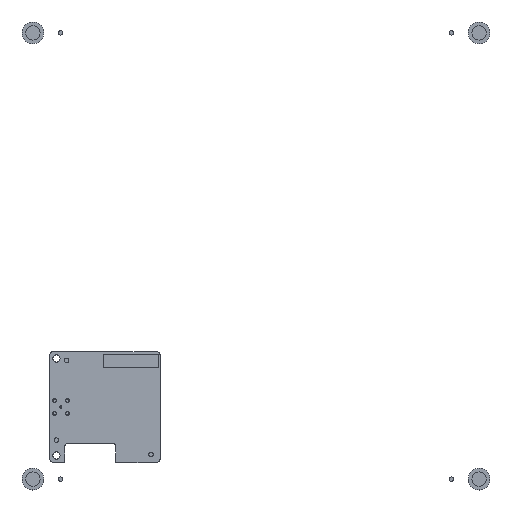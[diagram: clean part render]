
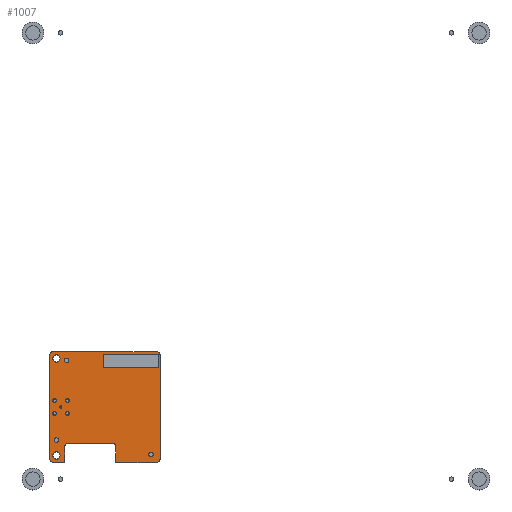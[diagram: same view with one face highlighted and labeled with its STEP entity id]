
A CAD part, top view. The second image highlights one B-rep face of the part: STEP entity #1007.
In plain terms, the highlighted planar face has unit normal (0, 0, 1).
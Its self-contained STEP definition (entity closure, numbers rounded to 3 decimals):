
#699=FACE_OUTER_BOUND($,#815,.F.);
#715=FACE_OUTER_BOUND($,#831,.T.);
#719=FACE_OUTER_BOUND($,#835,.T.);
#723=FACE_OUTER_BOUND($,#839,.T.);
#727=FACE_OUTER_BOUND($,#843,.T.);
#731=FACE_OUTER_BOUND($,#847,.T.);
#735=FACE_OUTER_BOUND($,#851,.T.);
#739=FACE_OUTER_BOUND($,#855,.T.);
#815=EDGE_LOOP($,(#1427,#1428,#1429,#1430,#1431,#1432,#1433,#1434,#1435,
#1436,#1437,#1438,#1439,#1440));
#831=EDGE_LOOP($,(#1511,#1512));
#835=EDGE_LOOP($,(#1523,#1524));
#839=EDGE_LOOP($,(#1535,#1536));
#843=EDGE_LOOP($,(#1547,#1548));
#847=EDGE_LOOP($,(#1559,#1560));
#851=EDGE_LOOP($,(#1571,#1572));
#855=EDGE_LOOP($,(#1583,#1584));
#931=PLANE($,#1167);
#1007=ADVANCED_FACE($,(#699,#715,#719,#723,#727,#731,#735,#739),#931,.T.);
#1109=CIRCLE($,#1161,0.886);
#1110=CIRCLE($,#1162,0.933);
#1111=CIRCLE($,#1163,0.756);
#1112=CIRCLE($,#1164,0.756);
#1113=CIRCLE($,#1165,0.889);
#1114=CIRCLE($,#1166,0.891);
#1121=CIRCLE($,#1189,0.254);
#1122=CIRCLE($,#1190,0.254);
#1125=CIRCLE($,#1195,0.419);
#1126=CIRCLE($,#1196,0.419);
#1129=CIRCLE($,#1201,0.419);
#1130=CIRCLE($,#1202,0.419);
#1133=CIRCLE($,#1207,0.419);
#1134=CIRCLE($,#1208,0.419);
#1137=CIRCLE($,#1213,0.419);
#1138=CIRCLE($,#1214,0.419);
#1141=CIRCLE($,#1219,0.826);
#1142=CIRCLE($,#1220,0.826);
#1145=CIRCLE($,#1225,0.826);
#1146=CIRCLE($,#1226,0.826);
#1161=AXIS2_PLACEMENT_3D($,#3217,#2851,$);
#1162=AXIS2_PLACEMENT_3D($,#3218,#2851,$);
#1163=AXIS2_PLACEMENT_3D($,#3219,#2851,$);
#1164=AXIS2_PLACEMENT_3D($,#3220,#2851,$);
#1165=AXIS2_PLACEMENT_3D($,#3221,#2851,$);
#1166=AXIS2_PLACEMENT_3D($,#3222,#2851,$);
#1167=AXIS2_PLACEMENT_3D($,#3203,#2851,$);
#1189=AXIS2_PLACEMENT_3D($,#3253,#2851,$);
#1190=AXIS2_PLACEMENT_3D($,#3254,#2851,$);
#1195=AXIS2_PLACEMENT_3D($,#3265,#2851,$);
#1196=AXIS2_PLACEMENT_3D($,#3266,#2851,$);
#1201=AXIS2_PLACEMENT_3D($,#3277,#2851,$);
#1202=AXIS2_PLACEMENT_3D($,#3278,#2851,$);
#1207=AXIS2_PLACEMENT_3D($,#3289,#2851,$);
#1208=AXIS2_PLACEMENT_3D($,#3290,#2851,$);
#1213=AXIS2_PLACEMENT_3D($,#3301,#2851,$);
#1214=AXIS2_PLACEMENT_3D($,#3302,#2851,$);
#1219=AXIS2_PLACEMENT_3D($,#3313,#2851,$);
#1220=AXIS2_PLACEMENT_3D($,#3314,#2851,$);
#1225=AXIS2_PLACEMENT_3D($,#3325,#2851,$);
#1226=AXIS2_PLACEMENT_3D($,#3326,#2851,$);
#1427=ORIENTED_EDGE($,*,*,#1871,.T.);
#1428=ORIENTED_EDGE($,*,*,#1872,.T.);
#1429=ORIENTED_EDGE($,*,*,#1873,.T.);
#1430=ORIENTED_EDGE($,*,*,#1874,.T.);
#1431=ORIENTED_EDGE($,*,*,#1875,.T.);
#1432=ORIENTED_EDGE($,*,*,#1876,.T.);
#1433=ORIENTED_EDGE($,*,*,#1877,.T.);
#1434=ORIENTED_EDGE($,*,*,#1878,.T.);
#1435=ORIENTED_EDGE($,*,*,#1879,.T.);
#1436=ORIENTED_EDGE($,*,*,#1880,.T.);
#1437=ORIENTED_EDGE($,*,*,#1881,.T.);
#1438=ORIENTED_EDGE($,*,*,#1882,.T.);
#1439=ORIENTED_EDGE($,*,*,#1883,.T.);
#1440=ORIENTED_EDGE($,*,*,#1884,.T.);
#1511=ORIENTED_EDGE($,*,*,#1914,.T.);
#1512=ORIENTED_EDGE($,*,*,#1915,.T.);
#1523=ORIENTED_EDGE($,*,*,#1921,.T.);
#1524=ORIENTED_EDGE($,*,*,#1922,.T.);
#1535=ORIENTED_EDGE($,*,*,#1928,.T.);
#1536=ORIENTED_EDGE($,*,*,#1929,.T.);
#1547=ORIENTED_EDGE($,*,*,#1935,.T.);
#1548=ORIENTED_EDGE($,*,*,#1936,.T.);
#1559=ORIENTED_EDGE($,*,*,#1942,.T.);
#1560=ORIENTED_EDGE($,*,*,#1943,.T.);
#1571=ORIENTED_EDGE($,*,*,#1949,.T.);
#1572=ORIENTED_EDGE($,*,*,#1950,.T.);
#1583=ORIENTED_EDGE($,*,*,#1956,.T.);
#1584=ORIENTED_EDGE($,*,*,#1957,.T.);
#1871=EDGE_CURVE($,#2496,#2497,#2305,.T.);
#1872=EDGE_CURVE($,#2497,#2498,#1109,.F.);
#1873=EDGE_CURVE($,#2498,#2499,#2306,.T.);
#1874=EDGE_CURVE($,#2499,#2500,#1110,.F.);
#1875=EDGE_CURVE($,#2500,#2501,#2307,.T.);
#1876=EDGE_CURVE($,#2501,#2502,#2308,.T.);
#1877=EDGE_CURVE($,#2502,#2503,#1111,.T.);
#1878=EDGE_CURVE($,#2503,#2504,#2309,.T.);
#1879=EDGE_CURVE($,#2504,#2505,#1112,.T.);
#1880=EDGE_CURVE($,#2505,#2506,#2310,.T.);
#1881=EDGE_CURVE($,#2506,#2507,#2311,.T.);
#1882=EDGE_CURVE($,#2507,#2508,#1113,.F.);
#1883=EDGE_CURVE($,#2508,#2509,#2312,.T.);
#1884=EDGE_CURVE($,#2509,#2496,#1114,.F.);
#1914=EDGE_CURVE($,#2526,#2527,#1121,.F.);
#1915=EDGE_CURVE($,#2527,#2526,#1122,.F.);
#1921=EDGE_CURVE($,#2532,#2533,#1125,.F.);
#1922=EDGE_CURVE($,#2533,#2532,#1126,.F.);
#1928=EDGE_CURVE($,#2538,#2539,#1129,.F.);
#1929=EDGE_CURVE($,#2539,#2538,#1130,.F.);
#1935=EDGE_CURVE($,#2544,#2545,#1133,.F.);
#1936=EDGE_CURVE($,#2545,#2544,#1134,.F.);
#1942=EDGE_CURVE($,#2550,#2551,#1137,.F.);
#1943=EDGE_CURVE($,#2551,#2550,#1138,.F.);
#1949=EDGE_CURVE($,#2556,#2557,#1141,.F.);
#1950=EDGE_CURVE($,#2557,#2556,#1142,.F.);
#1956=EDGE_CURVE($,#2562,#2563,#1145,.F.);
#1957=EDGE_CURVE($,#2563,#2562,#1146,.F.);
#2114=VECTOR($,#2854,23.597);
#2115=VECTOR($,#2855,23.647);
#2116=VECTOR($,#2856,9.271);
#2117=VECTOR($,#2857,3.627);
#2118=VECTOR($,#2858,10.16);
#2119=VECTOR($,#2859,3.621);
#2120=VECTOR($,#2860,2.609);
#2121=VECTOR($,#2861,23.651);
#2305=LINE($,#3202,#2114);
#2306=LINE($,#3204,#2115);
#2307=LINE($,#3206,#2116);
#2308=LINE($,#3207,#2117);
#2309=LINE($,#3209,#2118);
#2310=LINE($,#3211,#2119);
#2311=LINE($,#3212,#2120);
#2312=LINE($,#3214,#2121);
#2496=VERTEX_POINT($,#3202);
#2497=VERTEX_POINT($,#3203);
#2498=VERTEX_POINT($,#3204);
#2499=VERTEX_POINT($,#3205);
#2500=VERTEX_POINT($,#3206);
#2501=VERTEX_POINT($,#3207);
#2502=VERTEX_POINT($,#3208);
#2503=VERTEX_POINT($,#3209);
#2504=VERTEX_POINT($,#3210);
#2505=VERTEX_POINT($,#3211);
#2506=VERTEX_POINT($,#3212);
#2507=VERTEX_POINT($,#3213);
#2508=VERTEX_POINT($,#3214);
#2509=VERTEX_POINT($,#3215);
#2526=VERTEX_POINT($,#3250);
#2527=VERTEX_POINT($,#3251);
#2532=VERTEX_POINT($,#3262);
#2533=VERTEX_POINT($,#3263);
#2538=VERTEX_POINT($,#3274);
#2539=VERTEX_POINT($,#3275);
#2544=VERTEX_POINT($,#3286);
#2545=VERTEX_POINT($,#3287);
#2550=VERTEX_POINT($,#3298);
#2551=VERTEX_POINT($,#3299);
#2556=VERTEX_POINT($,#3310);
#2557=VERTEX_POINT($,#3311);
#2562=VERTEX_POINT($,#3322);
#2563=VERTEX_POINT($,#3323);
#2851=DIRECTION($,(0.,0.,1.));
#2854=DIRECTION($,(1.,0.,0.));
#2855=DIRECTION($,(0.,-1.,0.));
#2856=DIRECTION($,(-1.,0.001,0.));
#2857=DIRECTION($,(0.,1.,0.));
#2858=DIRECTION($,(-1.,0.,0.));
#2859=DIRECTION($,(0.,-1.,0.));
#2860=DIRECTION($,(-1.,0.001,0.));
#2861=DIRECTION($,(0.,1.,0.));
#3202=CARTESIAN_POINT('',(0.851,25.4,0.));
#3203=CARTESIAN_POINT('',(24.448,25.4,0.));
#3204=CARTESIAN_POINT('',(25.337,24.524,0.));
#3205=CARTESIAN_POINT('',(25.337,0.876,0.));
#3206=CARTESIAN_POINT('',(24.448,-0.013,0.));
#3207=CARTESIAN_POINT('',(15.177,-0.008,0.));
#3208=CARTESIAN_POINT('',(15.177,3.62,0.));
#3209=CARTESIAN_POINT('',(14.415,4.382,0.));
#3210=CARTESIAN_POINT('',(4.255,4.382,0.));
#3211=CARTESIAN_POINT('',(3.493,3.62,0.));
#3212=CARTESIAN_POINT('',(3.493,-0.002,0.));
#3213=CARTESIAN_POINT('',(0.883,0.,0.));
#3214=CARTESIAN_POINT('',(0.,0.879,0.));
#3215=CARTESIAN_POINT('',(0.,24.53,0.));
#3217=CARTESIAN_POINT('',(24.45,24.514,0.));
#3218=CARTESIAN_POINT('',(24.404,0.919,0.));
#3219=CARTESIAN_POINT('',(14.42,3.625,0.));
#3220=CARTESIAN_POINT('',(4.249,3.625,0.));
#3221=CARTESIAN_POINT('',(0.889,0.889,0.));
#3222=CARTESIAN_POINT('',(0.891,24.51,0.));
#3250=CARTESIAN_POINT('',(2.858,12.7,0.));
#3251=CARTESIAN_POINT('',(2.35,12.7,0.));
#3253=CARTESIAN_POINT('',(2.604,12.7,0.));
#3254=CARTESIAN_POINT('',(2.604,12.7,0.));
#3262=CARTESIAN_POINT('',(1.524,14.199,0.));
#3263=CARTESIAN_POINT('',(0.686,14.199,0.));
#3265=CARTESIAN_POINT('',(1.105,14.199,0.));
#3266=CARTESIAN_POINT('',(1.105,14.199,0.));
#3274=CARTESIAN_POINT('',(1.524,11.201,0.));
#3275=CARTESIAN_POINT('',(0.686,11.201,0.));
#3277=CARTESIAN_POINT('',(1.105,11.201,0.));
#3278=CARTESIAN_POINT('',(1.105,11.201,0.));
#3286=CARTESIAN_POINT('',(4.521,14.199,0.));
#3287=CARTESIAN_POINT('',(3.683,14.199,0.));
#3289=CARTESIAN_POINT('',(4.102,14.199,0.));
#3290=CARTESIAN_POINT('',(4.102,14.199,0.));
#3298=CARTESIAN_POINT('',(4.521,11.201,0.));
#3299=CARTESIAN_POINT('',(3.683,11.201,0.));
#3301=CARTESIAN_POINT('',(4.102,11.201,0.));
#3302=CARTESIAN_POINT('',(4.102,11.201,0.));
#3310=CARTESIAN_POINT('',(2.413,1.588,0.));
#3311=CARTESIAN_POINT('',(0.762,1.588,0.));
#3313=CARTESIAN_POINT('',(1.588,1.588,0.));
#3314=CARTESIAN_POINT('',(1.588,1.588,0.));
#3322=CARTESIAN_POINT('',(2.413,23.813,0.));
#3323=CARTESIAN_POINT('',(0.762,23.813,0.));
#3325=CARTESIAN_POINT('',(1.588,23.813,0.));
#3326=CARTESIAN_POINT('',(1.588,23.813,0.));
